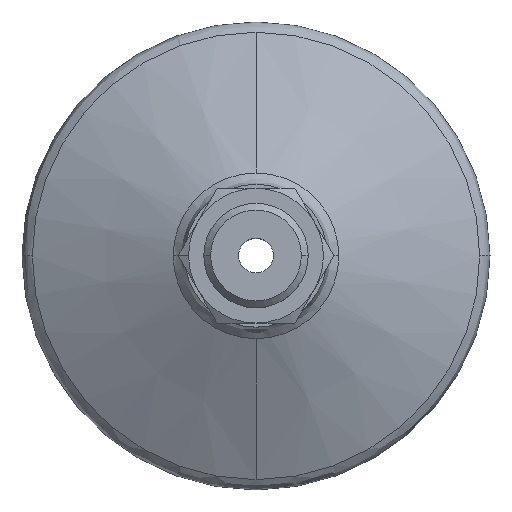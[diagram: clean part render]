
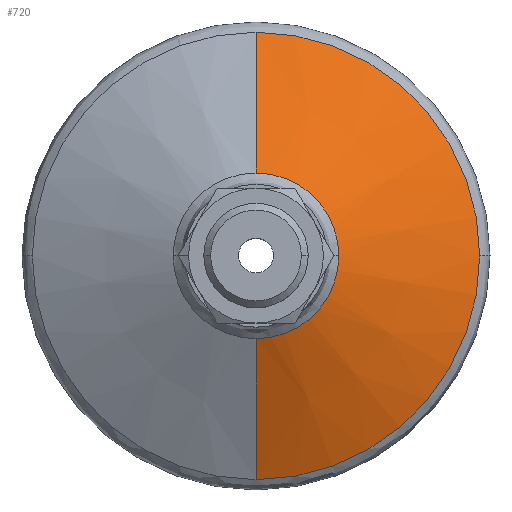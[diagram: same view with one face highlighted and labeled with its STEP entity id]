
A CAD part, top view. The second image highlights one B-rep face of the part: STEP entity #720.
In plain terms, the highlighted conical face has half-angle 64.982 degrees and reference radius 28.202 mm.
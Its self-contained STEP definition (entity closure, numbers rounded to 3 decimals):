
#37 = DIRECTION ( 'NONE',  ( 0., 0., -1. ) ) ;
#57 = EDGE_CURVE ( 'NONE', #159, #1583, #1862, .T. ) ;
#102 = AXIS2_PLACEMENT_3D ( 'NONE', #250, #688, #2200 ) ;
#159 = VERTEX_POINT ( 'NONE', #635 ) ;
#196 = VERTEX_POINT ( 'NONE', #1778 ) ;
#250 = CARTESIAN_POINT ( 'NONE',  ( 0., 0., 24.327 ) ) ;
#265 = DIRECTION ( 'NONE',  ( 0., 1., 0. ) ) ;
#273 = AXIS2_PLACEMENT_3D ( 'NONE', #1625, #37, #1090 ) ;
#355 = AXIS2_PLACEMENT_3D ( 'NONE', #1571, #360, #1750 ) ;
#360 = DIRECTION ( 'NONE',  ( 0., 0., 1. ) ) ;
#450 = EDGE_CURVE ( 'NONE', #2229, #159, #477, .T. ) ;
#477 = CIRCLE ( 'NONE', #102, 10.442 ) ;
#523 = FACE_OUTER_BOUND ( 'NONE', #1508, .T. ) ;
#546 = CARTESIAN_POINT ( 'NONE',  ( 0., 0., 16.039 ) ) ;
#568 = VERTEX_POINT ( 'NONE', #764 ) ;
#632 = ORIENTED_EDGE ( 'NONE', *, *, #57, .T. ) ;
#635 = CARTESIAN_POINT ( 'NONE',  ( 10.442, 0., 24.327 ) ) ;
#663 = VECTOR ( 'NONE', #1630, 1000. ) ;
#667 = CARTESIAN_POINT ( 'NONE',  ( 0., 28.202, 16.039 ) ) ;
#688 = DIRECTION ( 'NONE',  ( 0., 0., -1. ) ) ;
#720 = ADVANCED_FACE ( 'NONE', ( #523 ), #1589, .T. ) ;
#764 = CARTESIAN_POINT ( 'NONE',  ( 0., -28.202, 16.039 ) ) ;
#766 = DIRECTION ( 'NONE',  ( 1., 0., 0. ) ) ;
#827 = CARTESIAN_POINT ( 'NONE',  ( 0., 10.442, 24.327 ) ) ;
#836 = AXIS2_PLACEMENT_3D ( 'NONE', #546, #1887, #766 ) ;
#1001 = ORIENTED_EDGE ( 'NONE', *, *, #1177, .F. ) ;
#1090 = DIRECTION ( 'NONE',  ( 1., 0., 0. ) ) ;
#1112 = ORIENTED_EDGE ( 'NONE', *, *, #1674, .T. ) ;
#1140 = CARTESIAN_POINT ( 'NONE',  ( 0., 0., 16.039 ) ) ;
#1177 = EDGE_CURVE ( 'NONE', #2229, #1891, #2071, .T. ) ;
#1443 = ORIENTED_EDGE ( 'NONE', *, *, #1530, .T. ) ;
#1480 = DIRECTION ( 'NONE',  ( 0., 0., -1. ) ) ;
#1508 = EDGE_LOOP ( 'NONE', ( #2484, #632, #1112, #1888, #1443, #1001 ) ) ;
#1530 = EDGE_CURVE ( 'NONE', #196, #1891, #2104, .T. ) ;
#1571 = CARTESIAN_POINT ( 'NONE',  ( 0., 0., 16.039 ) ) ;
#1583 = VERTEX_POINT ( 'NONE', #2491 ) ;
#1589 = CONICAL_SURFACE ( 'NONE', #2061, 28.202, 1.134 ) ;
#1625 = CARTESIAN_POINT ( 'NONE',  ( 0., 0., 24.327 ) ) ;
#1630 = DIRECTION ( 'NONE',  ( 0., 0.906, -0.423 ) ) ;
#1631 = VECTOR ( 'NONE', #2146, 1000. ) ;
#1661 = CIRCLE ( 'NONE', #836, 28.202 ) ;
#1674 = EDGE_CURVE ( 'NONE', #1583, #568, #2138, .T. ) ;
#1750 = DIRECTION ( 'NONE',  ( 1., 0., 0. ) ) ;
#1778 = CARTESIAN_POINT ( 'NONE',  ( 28.202, 0., 16.039 ) ) ;
#1862 = CIRCLE ( 'NONE', #273, 10.442 ) ;
#1887 = DIRECTION ( 'NONE',  ( 0., 0., 1. ) ) ;
#1888 = ORIENTED_EDGE ( 'NONE', *, *, #2100, .T. ) ;
#1891 = VERTEX_POINT ( 'NONE', #2412 ) ;
#1956 = CARTESIAN_POINT ( 'NONE',  ( 0., -28.202, 16.039 ) ) ;
#2061 = AXIS2_PLACEMENT_3D ( 'NONE', #1140, #1480, #265 ) ;
#2071 = LINE ( 'NONE', #667, #663 ) ;
#2100 = EDGE_CURVE ( 'NONE', #568, #196, #1661, .T. ) ;
#2104 = CIRCLE ( 'NONE', #355, 28.202 ) ;
#2138 = LINE ( 'NONE', #1956, #1631 ) ;
#2146 = DIRECTION ( 'NONE',  ( 0., -0.906, -0.423 ) ) ;
#2200 = DIRECTION ( 'NONE',  ( 1., 0., 0. ) ) ;
#2229 = VERTEX_POINT ( 'NONE', #827 ) ;
#2412 = CARTESIAN_POINT ( 'NONE',  ( 0., 28.202, 16.039 ) ) ;
#2484 = ORIENTED_EDGE ( 'NONE', *, *, #450, .T. ) ;
#2491 = CARTESIAN_POINT ( 'NONE',  ( 0., -10.442, 24.327 ) ) ;
